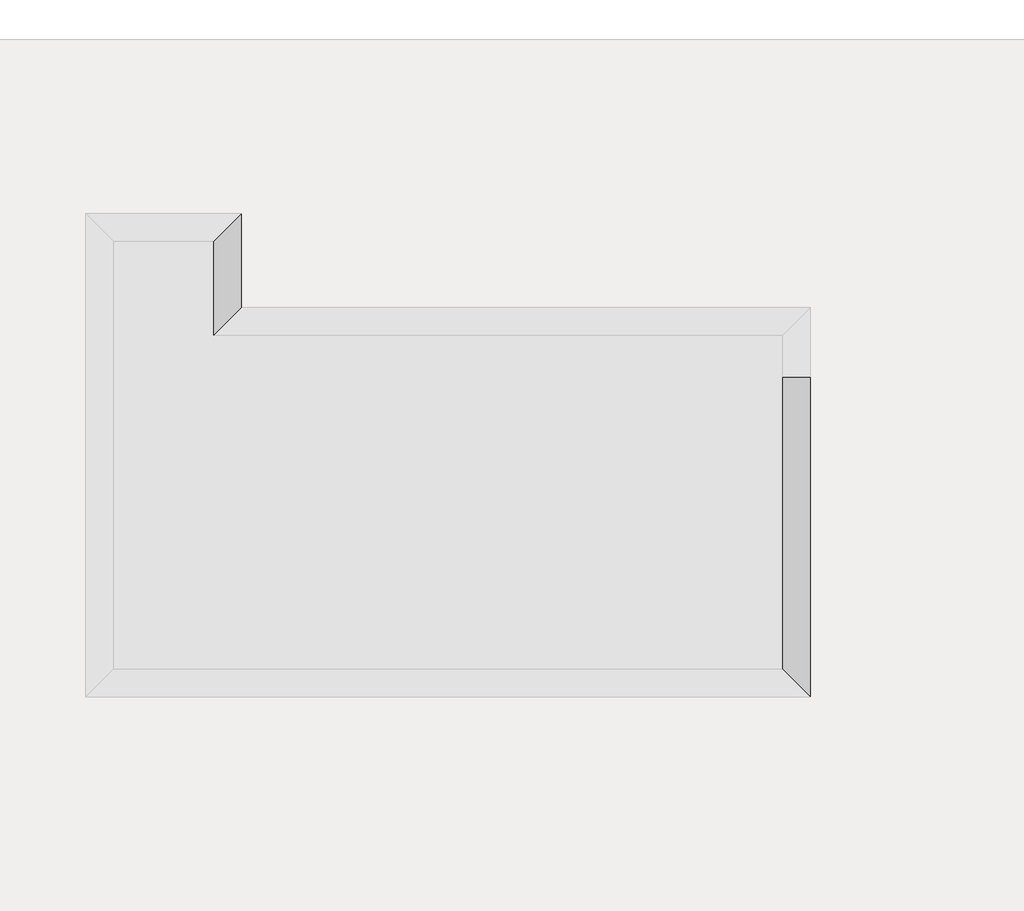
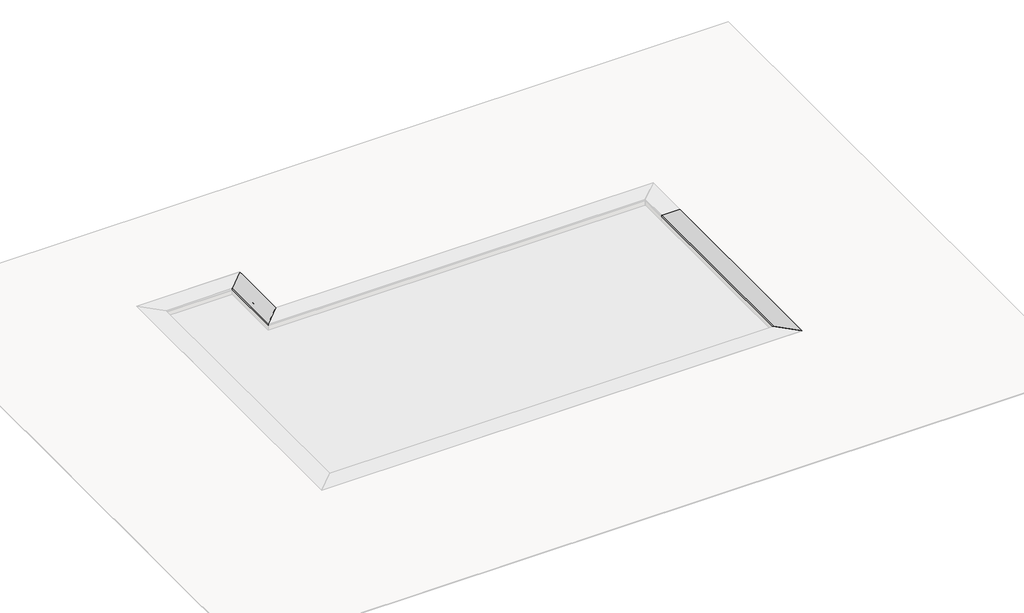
# One storey, part 5 of 6: 4 proxies.
"""IFC4 building model written with IfcOpenShell, lengths in millimetres."""

from ifc_helpers import new_model, si_unit, origin, place, context, project, spatial, faceted_brep, element, save

model = new_model("IFC4")

# Units and contexts
model_context = context("Model", 3, world=origin())
ifc_project = project(units=[si_unit("LENGTHUNIT", "METRE", prefix="MILLI")], contexts=[model_context])

# Site, building, storey
site = spatial("IfcSite", under=ifc_project)
building = spatial("IfcBuilding", under=site)
storey = spatial("IfcBuildingStorey", under=building, Name="EXAGRES_Serie NUBIA_Piscinas_ejemplo", Elevation=18000.0)

# Proxies
placement = place(None, origin())
element("IfcBuildingElementProxy", 1, Name="Wall Sweeps", at=placement, inside=storey, context=model_context, shape_type="Brep", body=[
    faceted_brep([(12584.1171839, -4530.6632512, 18000.0), (12584.1171839, -4530.6632512, 18008.0), (12583.1171839, -4531.6632512, 18008.0), (12583.1171839, -4531.6632512, 18014.0), (12584.1171839, -4530.6632512, 18014.0), (12584.1171839, -4530.6632512, 18021.0), (12591.1171839, -4523.6632512, 18021.0), (12591.1171839, -4523.6632512, 18022.0), (12595.1171839, -4519.6632512, 18022.0), (12595.1171839, -4519.6632512, 18021.0), (12601.1171839, -4513.6632512, 18021.0), (12601.1171839, -4513.6632512, 18022.0), (12605.1171839, -4509.6632512, 18022.0), (12605.1171839, -4509.6632512, 18021.0), (12611.1171839, -4503.6632512, 18021.0), (12611.1171839, -4503.6632512, 18022.0), (12615.1171839, -4499.6632512, 18022.0), (12615.1171839, -4499.6632512, 18021.0), (12621.1171839, -4493.6632512, 18021.0), (12621.1171839, -4493.6632512, 18022.0), (12625.1171839, -4489.6632512, 18022.0), (12625.1171839, -4489.6632512, 18021.0), (12631.1171839, -4483.6632512, 18021.0), (12631.1171839, -4483.6632512, 18022.0), (12635.1171839, -4479.6632512, 18022.0), (12635.1171839, -4479.6632512, 18021.0), (12641.1171839, -4473.6632512, 18021.0), (12641.1171839, -4473.6632512, 18022.0), (12645.1171839, -4469.6632512, 18022.0), (12645.1171839, -4469.6632512, 18021.0), (12651.1171839, -4463.6632512, 18021.0), (12651.1171839, -4463.6632512, 18022.0), (12655.1171839, -4459.6632512, 18022.0), (12655.1171839, -4459.6632512, 18021.0), (12661.1171839, -4453.6632512, 18021.0), (12661.1171839, -4453.6632512, 18022.0), (12665.1171839, -4449.6632512, 18022.0), (12665.1171839, -4449.6632512, 18021.0), (12671.1171839, -4443.6632512, 18021.0), (12671.1171839, -4443.6632512, 18022.0), (12675.1171839, -4439.6632512, 18022.0), (12675.1171839, -4439.6632512, 18021.0), (12681.1171839, -4433.6632512, 18021.0), (12681.1171839, -4433.6632512, 18022.0), (12685.1171839, -4429.6632512, 18022.0), (12685.1171839, -4429.6632512, 18021.0), (12691.1171839, -4423.6632512, 18021.0), (12691.1171839, -4423.6632512, 18022.0), (12695.1171839, -4419.6632512, 18022.0), (12695.1171839, -4419.6632512, 18021.0), (12701.1171839, -4413.6632512, 18021.0), (12701.1171839, -4413.6632512, 18022.0), (12705.1171839, -4409.6632512, 18022.0), (12705.1171839, -4409.6632512, 18021.0), (12711.1171839, -4403.6632512, 18021.0), (12711.1171839, -4403.6632512, 18022.0), (12715.1171839, -4399.6632512, 18022.0), (12715.1171839, -4399.6632512, 18021.0), (12721.1171839, -4393.6632512, 18021.0), (12721.1171839, -4393.6632512, 18022.0), (12725.1171839, -4389.6632512, 18022.0), (12725.1171839, -4389.6632512, 18021.0), (12731.1171839, -4383.6632512, 18021.0), (12731.1171839, -4383.6632512, 18022.0), (12735.1171839, -4379.6632512, 18022.0), (12735.1171839, -4379.6632512, 18021.0), (12741.1171839, -4373.6632512, 18021.0), (12741.1171839, -4373.6632512, 18022.0), (12745.1171839, -4369.6632512, 18022.0), (12745.1171839, -4369.6632512, 18021.0), (12751.1171839, -4363.6632512, 18021.0), (12751.1171839, -4363.6632512, 18022.0), (12755.1171839, -4359.6632512, 18022.0), (12755.1171839, -4359.6632512, 18021.0), (12761.1171839, -4353.6632512, 18021.0), (12761.1171839, -4353.6632512, 18022.0), (12765.1171839, -4349.6632512, 18022.0), (12765.1171839, -4349.6632512, 18021.0), (12771.1171839, -4343.6632512, 18021.0), (12771.1171839, -4343.6632512, 18022.0), (12775.1171839, -4339.6632512, 18022.0), (12775.1171839, -4339.6632512, 18021.0), (12781.1171839, -4333.6632512, 18021.0), (12781.1171839, -4333.6632512, 18022.0), (12785.1171839, -4329.6632512, 18022.0), (12785.1171839, -4329.6632512, 18021.0), (12791.1171839, -4323.6632512, 18021.0), (12791.1171839, -4323.6632512, 18022.0), (12795.1171839, -4319.6632512, 18022.0), (12795.1171839, -4319.6632512, 18021.0), (12801.1171839, -4313.6632512, 18021.0), (12801.1171839, -4313.6632512, 18022.0), (12805.1171839, -4309.6632512, 18022.0), (12805.1171839, -4309.6632512, 18021.0), (12811.1171839, -4303.6632512, 18021.0), (12811.1171839, -4303.6632512, 18022.0), (12815.1171839, -4299.6632512, 18022.0), (12815.1171839, -4299.6632512, 18021.0), (12821.1171839, -4293.6632512, 18021.0), (12821.1171839, -4293.6632512, 18022.0), (12825.1171839, -4289.6632512, 18022.0), (12825.1171839, -4289.6632512, 18021.0), (12831.1171839, -4283.6632512, 18021.0), (12831.1171839, -4283.6632512, 18022.0), (12835.1171839, -4279.6632512, 18022.0), (12835.1171839, -4279.6632512, 18021.0), (12841.1171839, -4273.6632512, 18021.0), (12841.1171839, -4273.6632512, 18022.0), (12845.1171839, -4269.6632512, 18022.0), (12845.1171839, -4269.6632512, 18021.0), (12851.1171839, -4263.6632512, 18021.0), (12851.1171839, -4263.6632512, 18022.0), (12855.1171839, -4259.6632512, 18022.0), (12855.1171839, -4259.6632512, 18021.0), (12861.1171839, -4253.6632512, 18021.0), (12861.1171839, -4253.6632512, 18022.0), (12865.1171839, -4249.6632512, 18022.0), (12865.1171839, -4249.6632512, 18021.0), (12871.1171839, -4243.6632512, 18021.0), (12871.1171839, -4243.6632512, 18022.0), (12875.1171839, -4239.6632512, 18022.0), (12875.1171839, -4239.6632512, 18021.0), (12881.1171839, -4233.6632512, 18021.0), (12881.1171839, -4233.6632512, 18022.0), (12885.1171839, -4229.6632512, 18022.0), (12885.1171839, -4229.6632512, 18021.0), (12891.1171839, -4223.6632512, 18021.0), (12891.1171839, -4223.6632512, 18022.0), (12895.1171839, -4219.6632512, 18022.0), (12895.1171839, -4219.6632512, 18021.0), (12901.1171839, -4213.6632512, 18021.0), (12901.1171839, -4213.6632512, 18033.0), (12571.1171839, -4543.6632512, 18033.0), (12571.1171839, -4543.6632512, 18000.0), (12584.1171839, -3410.6632512, 18000.0), (12571.1171839, -3423.6632512, 18000.0), (12571.1171839, -3423.6632512, 18033.0), (12901.1171839, -3093.6632512, 18033.0), (12901.1171839, -3093.6632512, 18021.0), (12895.1171839, -3099.6632512, 18021.0), (12895.1171839, -3099.6632512, 18022.0), (12891.1171839, -3103.6632512, 18022.0), (12891.1171839, -3103.6632512, 18021.0), (12885.1171839, -3109.6632512, 18021.0), (12885.1171839, -3109.6632512, 18022.0), (12881.1171839, -3113.6632512, 18022.0), (12881.1171839, -3113.6632512, 18021.0), (12875.1171839, -3119.6632512, 18021.0), (12875.1171839, -3119.6632512, 18022.0), (12871.1171839, -3123.6632512, 18022.0), (12871.1171839, -3123.6632512, 18021.0), (12865.1171839, -3129.6632512, 18021.0), (12865.1171839, -3129.6632512, 18022.0), (12861.1171839, -3133.6632512, 18022.0), (12861.1171839, -3133.6632512, 18021.0), (12855.1171839, -3139.6632512, 18021.0), (12855.1171839, -3139.6632512, 18022.0), (12851.1171839, -3143.6632512, 18022.0), (12851.1171839, -3143.6632512, 18021.0), (12845.1171839, -3149.6632512, 18021.0), (12845.1171839, -3149.6632512, 18022.0), (12841.1171839, -3153.6632512, 18022.0), (12841.1171839, -3153.6632512, 18021.0), (12835.1171839, -3159.6632512, 18021.0), (12835.1171839, -3159.6632512, 18022.0), (12831.1171839, -3163.6632512, 18022.0), (12831.1171839, -3163.6632512, 18021.0), (12825.1171839, -3169.6632512, 18021.0), (12825.1171839, -3169.6632512, 18022.0), (12821.1171839, -3173.6632512, 18022.0), (12821.1171839, -3173.6632512, 18021.0), (12815.1171839, -3179.6632512, 18021.0), (12815.1171839, -3179.6632512, 18022.0), (12811.1171839, -3183.6632512, 18022.0), (12811.1171839, -3183.6632512, 18021.0), (12805.1171839, -3189.6632512, 18021.0), (12805.1171839, -3189.6632512, 18022.0), (12801.1171839, -3193.6632512, 18022.0), (12801.1171839, -3193.6632512, 18021.0), (12795.1171839, -3199.6632512, 18021.0), (12795.1171839, -3199.6632512, 18022.0), (12791.1171839, -3203.6632512, 18022.0), (12791.1171839, -3203.6632512, 18021.0), (12785.1171839, -3209.6632512, 18021.0), (12785.1171839, -3209.6632512, 18022.0), (12781.1171839, -3213.6632512, 18022.0), (12781.1171839, -3213.6632512, 18021.0), (12775.1171839, -3219.6632512, 18021.0), (12775.1171839, -3219.6632512, 18022.0), (12771.1171839, -3223.6632512, 18022.0), (12771.1171839, -3223.6632512, 18021.0), (12765.1171839, -3229.6632512, 18021.0), (12765.1171839, -3229.6632512, 18022.0), (12761.1171839, -3233.6632512, 18022.0), (12761.1171839, -3233.6632512, 18021.0), (12755.1171839, -3239.6632512, 18021.0), (12755.1171839, -3239.6632512, 18022.0), (12751.1171839, -3243.6632512, 18022.0), (12751.1171839, -3243.6632512, 18021.0), (12745.1171839, -3249.6632512, 18021.0), (12745.1171839, -3249.6632512, 18022.0), (12741.1171839, -3253.6632512, 18022.0), (12741.1171839, -3253.6632512, 18021.0), (12735.1171839, -3259.6632512, 18021.0), (12735.1171839, -3259.6632512, 18022.0), (12731.1171839, -3263.6632512, 18022.0), (12731.1171839, -3263.6632512, 18021.0), (12725.1171839, -3269.6632512, 18021.0), (12725.1171839, -3269.6632512, 18022.0), (12721.1171839, -3273.6632512, 18022.0), (12721.1171839, -3273.6632512, 18021.0), (12715.1171839, -3279.6632512, 18021.0), (12715.1171839, -3279.6632512, 18022.0), (12711.1171839, -3283.6632512, 18022.0), (12711.1171839, -3283.6632512, 18021.0), (12705.1171839, -3289.6632512, 18021.0), (12705.1171839, -3289.6632512, 18022.0), (12701.1171839, -3293.6632512, 18022.0), (12701.1171839, -3293.6632512, 18021.0), (12695.1171839, -3299.6632512, 18021.0), (12695.1171839, -3299.6632512, 18022.0), (12691.1171839, -3303.6632512, 18022.0), (12691.1171839, -3303.6632512, 18021.0), (12685.1171839, -3309.6632512, 18021.0), (12685.1171839, -3309.6632512, 18022.0), (12681.1171839, -3313.6632512, 18022.0), (12681.1171839, -3313.6632512, 18021.0), (12675.1171839, -3319.6632512, 18021.0), (12675.1171839, -3319.6632512, 18022.0), (12671.1171839, -3323.6632512, 18022.0), (12671.1171839, -3323.6632512, 18021.0), (12665.1171839, -3329.6632512, 18021.0), (12665.1171839, -3329.6632512, 18022.0), (12661.1171839, -3333.6632512, 18022.0), (12661.1171839, -3333.6632512, 18021.0), (12655.1171839, -3339.6632512, 18021.0), (12655.1171839, -3339.6632512, 18022.0), (12651.1171839, -3343.6632512, 18022.0), (12651.1171839, -3343.6632512, 18021.0), (12645.1171839, -3349.6632512, 18021.0), (12645.1171839, -3349.6632512, 18022.0), (12641.1171839, -3353.6632512, 18022.0), (12641.1171839, -3353.6632512, 18021.0), (12635.1171839, -3359.6632512, 18021.0), (12635.1171839, -3359.6632512, 18022.0), (12631.1171839, -3363.6632512, 18022.0), (12631.1171839, -3363.6632512, 18021.0), (12625.1171839, -3369.6632512, 18021.0), (12625.1171839, -3369.6632512, 18022.0), (12621.1171839, -3373.6632512, 18022.0), (12621.1171839, -3373.6632512, 18021.0), (12615.1171839, -3379.6632512, 18021.0), (12615.1171839, -3379.6632512, 18022.0), (12611.1171839, -3383.6632512, 18022.0), (12611.1171839, -3383.6632512, 18021.0), (12605.1171839, -3389.6632512, 18021.0), (12605.1171839, -3389.6632512, 18022.0), (12601.1171839, -3393.6632512, 18022.0), (12601.1171839, -3393.6632512, 18021.0), (12595.1171839, -3399.6632512, 18021.0), (12595.1171839, -3399.6632512, 18022.0), (12591.1171839, -3403.6632512, 18022.0), (12591.1171839, -3403.6632512, 18021.0), (12584.1171839, -3410.6632512, 18021.0), (12584.1171839, -3410.6632512, 18014.0), (12583.1171839, -3411.6632512, 18014.0), (12583.1171839, -3411.6632512, 18008.0), (12584.1171839, -3410.6632512, 18008.0)], [[[0, 1, 2, 3, 4, 5, 6, 7, 8, 9, 10, 11, 12, 13, 14, 15, 16, 17, 18, 19, 20, 21, 22, 23, 24, 25, 26, 27, 28, 29, 30, 31, 32, 33, 34, 35, 36, 37, 38, 39, 40, 41, 42, 43, 44, 45, 46, 47, 48, 49, 50, 51, 52, 53, 54, 55, 56, 57, 58, 59, 60, 61, 62, 63, 64, 65, 66, 67, 68, 69, 70, 71, 72, 73, 74, 75, 76, 77, 78, 79, 80, 81, 82, 83, 84, 85, 86, 87, 88, 89, 90, 91, 92, 93, 94, 95, 96, 97, 98, 99, 100, 101, 102, 103, 104, 105, 106, 107, 108, 109, 110, 111, 112, 113, 114, 115, 116, 117, 118, 119, 120, 121, 122, 123, 124, 125, 126, 127, 128, 129, 130, 131, 132, 133]], [[134, 135, 136, 137, 138, 139, 140, 141, 142, 143, 144, 145, 146, 147, 148, 149, 150, 151, 152, 153, 154, 155, 156, 157, 158, 159, 160, 161, 162, 163, 164, 165, 166, 167, 168, 169, 170, 171, 172, 173, 174, 175, 176, 177, 178, 179, 180, 181, 182, 183, 184, 185, 186, 187, 188, 189, 190, 191, 192, 193, 194, 195, 196, 197, 198, 199, 200, 201, 202, 203, 204, 205, 206, 207, 208, 209, 210, 211, 212, 213, 214, 215, 216, 217, 218, 219, 220, 221, 222, 223, 224, 225, 226, 227, 228, 229, 230, 231, 232, 233, 234, 235, 236, 237, 238, 239, 240, 241, 242, 243, 244, 245, 246, 247, 248, 249, 250, 251, 252, 253, 254, 255, 256, 257, 258, 259, 260, 261, 262, 263, 264, 265, 266, 267]], [[1, 0, 134, 267]], [[2, 1, 267, 266]], [[3, 2, 266, 265]], [[4, 3, 265, 264]], [[5, 4, 264, 263]], [[6, 5, 263, 262]], [[7, 6, 262, 261]], [[8, 7, 261, 260]], [[9, 8, 260, 259]], [[10, 9, 259, 258]], [[11, 10, 258, 257]], [[12, 11, 257, 256]], [[13, 12, 256, 255]], [[14, 13, 255, 254]], [[15, 14, 254, 253]], [[16, 15, 253, 252]], [[17, 16, 252, 251]], [[18, 17, 251, 250]], [[19, 18, 250, 249]], [[20, 19, 249, 248]], [[21, 20, 248, 247]], [[22, 21, 247, 246]], [[23, 22, 246, 245]], [[24, 23, 245, 244]], [[25, 24, 244, 243]], [[26, 25, 243, 242]], [[27, 26, 242, 241]], [[28, 27, 241, 240]], [[29, 28, 240, 239]], [[30, 29, 239, 238]], [[31, 30, 238, 237]], [[32, 31, 237, 236]], [[33, 32, 236, 235]], [[34, 33, 235, 234]], [[35, 34, 234, 233]], [[36, 35, 233, 232]], [[37, 36, 232, 231]], [[38, 37, 231, 230]], [[39, 38, 230, 229]], [[40, 39, 229, 228]], [[41, 40, 228, 227]], [[42, 41, 227, 226]], [[43, 42, 226, 225]], [[44, 43, 225, 224]], [[45, 44, 224, 223]], [[46, 45, 223, 222]], [[47, 46, 222, 221]], [[48, 47, 221, 220]], [[49, 48, 220, 219]], [[50, 49, 219, 218]], [[51, 50, 218, 217]], [[52, 51, 217, 216]], [[53, 52, 216, 215]], [[54, 53, 215, 214]], [[55, 54, 214, 213]], [[56, 55, 213, 212]], [[57, 56, 212, 211]], [[58, 57, 211, 210]], [[59, 58, 210, 209]], [[60, 59, 209, 208]], [[61, 60, 208, 207]], [[62, 61, 207, 206]], [[63, 62, 206, 205]], [[64, 63, 205, 204]], [[65, 64, 204, 203]], [[66, 65, 203, 202]], [[67, 66, 202, 201]], [[68, 67, 201, 200]], [[69, 68, 200, 199]], [[70, 69, 199, 198]], [[71, 70, 198, 197]], [[72, 71, 197, 196]], [[73, 72, 196, 195]], [[74, 73, 195, 194]], [[75, 74, 194, 193]], [[76, 75, 193, 192]], [[77, 76, 192, 191]], [[78, 77, 191, 190]], [[79, 78, 190, 189]], [[80, 79, 189, 188]], [[81, 80, 188, 187]], [[82, 81, 187, 186]], [[83, 82, 186, 185]], [[84, 83, 185, 184]], [[85, 84, 184, 183]], [[86, 85, 183, 182]], [[87, 86, 182, 181]], [[88, 87, 181, 180]], [[89, 88, 180, 179]], [[90, 89, 179, 178]], [[91, 90, 178, 177]], [[92, 91, 177, 176]], [[93, 92, 176, 175]], [[94, 93, 175, 174]], [[95, 94, 174, 173]], [[96, 95, 173, 172]], [[97, 96, 172, 171]], [[98, 97, 171, 170]], [[99, 98, 170, 169]], [[100, 99, 169, 168]], [[101, 100, 168, 167]], [[102, 101, 167, 166]], [[103, 102, 166, 165]], [[104, 103, 165, 164]], [[105, 104, 164, 163]], [[106, 105, 163, 162]], [[107, 106, 162, 161]], [[108, 107, 161, 160]], [[109, 108, 160, 159]], [[110, 109, 159, 158]], [[111, 110, 158, 157]], [[112, 111, 157, 156]], [[113, 112, 156, 155]], [[114, 113, 155, 154]], [[115, 114, 154, 153]], [[116, 115, 153, 152]], [[117, 116, 152, 151]], [[118, 117, 151, 150]], [[119, 118, 150, 149]], [[120, 119, 149, 148]], [[121, 120, 148, 147]], [[122, 121, 147, 146]], [[123, 122, 146, 145]], [[124, 123, 145, 144]], [[125, 124, 144, 143]], [[126, 125, 143, 142]], [[127, 126, 142, 141]], [[128, 127, 141, 140]], [[129, 128, 140, 139]], [[130, 129, 139, 138]], [[131, 130, 138, 137]], [[132, 131, 137, 136]], [[133, 132, 136, 135]], [[0, 133, 135, 134]]]),
])
element("IfcBuildingElementProxy", 2, Name="Wall Sweeps", at=placement, inside=storey, context=model_context, shape_type="Brep", body=[
    faceted_brep([(12891.1171839, -4223.6632512, 17818.74), (12891.1171839, -4223.6632512, 18018.74), (12586.1171839, -4528.6632512, 18018.74), (12586.1171839, -4528.6632512, 18000.0), (12586.1171839, -4528.6632512, 17818.74), (12796.1171839, -4318.6632512, 17818.74), (12891.1171839, -3103.6632512, 17818.74), (12796.1171839, -3198.6632512, 17818.74), (12586.1171839, -3408.6632512, 17818.74), (12586.1171839, -3408.6632512, 18000.0), (12586.1171839, -3408.6632512, 18018.74), (12891.1171839, -3103.6632512, 18018.74)], [[[0, 1, 2, 3, 4, 5]], [[6, 7, 8, 9, 10, 11]], [[0, 5, 4, 8, 7, 6]], [[4, 3, 2, 10, 9, 8]], [[1, 0, 6, 11]], [[2, 1, 11, 10]]]),
])
element("IfcBuildingElementProxy", 3, Name="Wall Sweeps", at=placement, inside=storey, context=model_context, shape_type="Brep", body=[
    faceted_brep([(19384.1171839, -5051.1632512, 18000.0), (19371.1171839, -5051.1632512, 18000.0), (19371.1171839, -5051.1632512, 18033.0), (19701.1171839, -5051.1632512, 18033.0), (19701.1171839, -5051.1632512, 18021.0), (19695.1171839, -5051.1632512, 18021.0), (19695.1171839, -5051.1632512, 18022.0), (19691.1171839, -5051.1632512, 18022.0), (19691.1171839, -5051.1632512, 18021.0), (19685.1171839, -5051.1632512, 18021.0), (19685.1171839, -5051.1632512, 18022.0), (19681.1171839, -5051.1632512, 18022.0), (19681.1171839, -5051.1632512, 18021.0), (19675.1171839, -5051.1632512, 18021.0), (19675.1171839, -5051.1632512, 18022.0), (19671.1171839, -5051.1632512, 18022.0), (19671.1171839, -5051.1632512, 18021.0), (19665.1171839, -5051.1632512, 18021.0), (19665.1171839, -5051.1632512, 18022.0), (19661.1171839, -5051.1632512, 18022.0), (19661.1171839, -5051.1632512, 18021.0), (19655.1171839, -5051.1632512, 18021.0), (19655.1171839, -5051.1632512, 18022.0), (19651.1171839, -5051.1632512, 18022.0), (19651.1171839, -5051.1632512, 18021.0), (19645.1171839, -5051.1632512, 18021.0), (19645.1171839, -5051.1632512, 18022.0), (19641.1171839, -5051.1632512, 18022.0), (19641.1171839, -5051.1632512, 18021.0), (19635.1171839, -5051.1632512, 18021.0), (19635.1171839, -5051.1632512, 18022.0), (19631.1171839, -5051.1632512, 18022.0), (19631.1171839, -5051.1632512, 18021.0), (19625.1171839, -5051.1632512, 18021.0), (19625.1171839, -5051.1632512, 18022.0), (19621.1171839, -5051.1632512, 18022.0), (19621.1171839, -5051.1632512, 18021.0), (19615.1171839, -5051.1632512, 18021.0), (19615.1171839, -5051.1632512, 18022.0), (19611.1171839, -5051.1632512, 18022.0), (19611.1171839, -5051.1632512, 18021.0), (19605.1171839, -5051.1632512, 18021.0), (19605.1171839, -5051.1632512, 18022.0), (19601.1171839, -5051.1632512, 18022.0), (19601.1171839, -5051.1632512, 18021.0), (19595.1171839, -5051.1632512, 18021.0), (19595.1171839, -5051.1632512, 18022.0), (19591.1171839, -5051.1632512, 18022.0), (19591.1171839, -5051.1632512, 18021.0), (19585.1171839, -5051.1632512, 18021.0), (19585.1171839, -5051.1632512, 18022.0), (19581.1171839, -5051.1632512, 18022.0), (19581.1171839, -5051.1632512, 18021.0), (19575.1171839, -5051.1632512, 18021.0), (19575.1171839, -5051.1632512, 18022.0), (19571.1171839, -5051.1632512, 18022.0), (19571.1171839, -5051.1632512, 18021.0), (19565.1171839, -5051.1632512, 18021.0), (19565.1171839, -5051.1632512, 18022.0), (19561.1171839, -5051.1632512, 18022.0), (19561.1171839, -5051.1632512, 18021.0), (19555.1171839, -5051.1632512, 18021.0), (19555.1171839, -5051.1632512, 18022.0), (19551.1171839, -5051.1632512, 18022.0), (19551.1171839, -5051.1632512, 18021.0), (19545.1171839, -5051.1632512, 18021.0), (19545.1171839, -5051.1632512, 18022.0), (19541.1171839, -5051.1632512, 18022.0), (19541.1171839, -5051.1632512, 18021.0), (19535.1171839, -5051.1632512, 18021.0), (19535.1171839, -5051.1632512, 18022.0), (19531.1171839, -5051.1632512, 18022.0), (19531.1171839, -5051.1632512, 18021.0), (19525.1171839, -5051.1632512, 18021.0), (19525.1171839, -5051.1632512, 18022.0), (19521.1171839, -5051.1632512, 18022.0), (19521.1171839, -5051.1632512, 18021.0), (19515.1171839, -5051.1632512, 18021.0), (19515.1171839, -5051.1632512, 18022.0), (19511.1171839, -5051.1632512, 18022.0), (19511.1171839, -5051.1632512, 18021.0), (19505.1171839, -5051.1632512, 18021.0), (19505.1171839, -5051.1632512, 18022.0), (19501.1171839, -5051.1632512, 18022.0), (19501.1171839, -5051.1632512, 18021.0), (19495.1171839, -5051.1632512, 18021.0), (19495.1171839, -5051.1632512, 18022.0), (19491.1171839, -5051.1632512, 18022.0), (19491.1171839, -5051.1632512, 18021.0), (19485.1171839, -5051.1632512, 18021.0), (19485.1171839, -5051.1632512, 18022.0), (19481.1171839, -5051.1632512, 18022.0), (19481.1171839, -5051.1632512, 18021.0), (19475.1171839, -5051.1632512, 18021.0), (19475.1171839, -5051.1632512, 18022.0), (19471.1171839, -5051.1632512, 18022.0), (19471.1171839, -5051.1632512, 18021.0), (19465.1171839, -5051.1632512, 18021.0), (19465.1171839, -5051.1632512, 18022.0), (19461.1171839, -5051.1632512, 18022.0), (19461.1171839, -5051.1632512, 18021.0), (19455.1171839, -5051.1632512, 18021.0), (19455.1171839, -5051.1632512, 18022.0), (19451.1171839, -5051.1632512, 18022.0), (19451.1171839, -5051.1632512, 18021.0), (19445.1171839, -5051.1632512, 18021.0), (19445.1171839, -5051.1632512, 18022.0), (19441.1171839, -5051.1632512, 18022.0), (19441.1171839, -5051.1632512, 18021.0), (19435.1171839, -5051.1632512, 18021.0), (19435.1171839, -5051.1632512, 18022.0), (19431.1171839, -5051.1632512, 18022.0), (19431.1171839, -5051.1632512, 18021.0), (19425.1171839, -5051.1632512, 18021.0), (19425.1171839, -5051.1632512, 18022.0), (19421.1171839, -5051.1632512, 18022.0), (19421.1171839, -5051.1632512, 18021.0), (19415.1171839, -5051.1632512, 18021.0), (19415.1171839, -5051.1632512, 18022.0), (19411.1171839, -5051.1632512, 18022.0), (19411.1171839, -5051.1632512, 18021.0), (19405.1171839, -5051.1632512, 18021.0), (19405.1171839, -5051.1632512, 18022.0), (19401.1171839, -5051.1632512, 18022.0), (19401.1171839, -5051.1632512, 18021.0), (19395.1171839, -5051.1632512, 18021.0), (19395.1171839, -5051.1632512, 18022.0), (19391.1171839, -5051.1632512, 18022.0), (19391.1171839, -5051.1632512, 18021.0), (19384.1171839, -5051.1632512, 18021.0), (19384.1171839, -5051.1632512, 18014.0), (19383.1171839, -5051.1632512, 18014.0), (19383.1171839, -5051.1632512, 18008.0), (19384.1171839, -5051.1632512, 18008.0), (19384.1171839, -8556.6632512, 18000.0), (19384.1171839, -8556.6632512, 18008.0), (19383.1171839, -8555.6632512, 18008.0), (19383.1171839, -8555.6632512, 18014.0), (19384.1171839, -8556.6632512, 18014.0), (19384.1171839, -8556.6632512, 18021.0), (19391.1171839, -8563.6632512, 18021.0), (19391.1171839, -8563.6632512, 18022.0), (19395.1171839, -8567.6632512, 18022.0), (19395.1171839, -8567.6632512, 18021.0), (19401.1171839, -8573.6632512, 18021.0), (19401.1171839, -8573.6632512, 18022.0), (19405.1171839, -8577.6632512, 18022.0), (19405.1171839, -8577.6632512, 18021.0), (19411.1171839, -8583.6632512, 18021.0), (19411.1171839, -8583.6632512, 18022.0), (19415.1171839, -8587.6632512, 18022.0), (19415.1171839, -8587.6632512, 18021.0), (19421.1171839, -8593.6632512, 18021.0), (19421.1171839, -8593.6632512, 18022.0), (19425.1171839, -8597.6632512, 18022.0), (19425.1171839, -8597.6632512, 18021.0), (19431.1171839, -8603.6632512, 18021.0), (19431.1171839, -8603.6632512, 18022.0), (19435.1171839, -8607.6632512, 18022.0), (19435.1171839, -8607.6632512, 18021.0), (19441.1171839, -8613.6632512, 18021.0), (19441.1171839, -8613.6632512, 18022.0), (19445.1171839, -8617.6632512, 18022.0), (19445.1171839, -8617.6632512, 18021.0), (19451.1171839, -8623.6632512, 18021.0), (19451.1171839, -8623.6632512, 18022.0), (19455.1171839, -8627.6632512, 18022.0), (19455.1171839, -8627.6632512, 18021.0), (19461.1171839, -8633.6632512, 18021.0), (19461.1171839, -8633.6632512, 18022.0), (19465.1171839, -8637.6632512, 18022.0), (19465.1171839, -8637.6632512, 18021.0), (19471.1171839, -8643.6632512, 18021.0), (19471.1171839, -8643.6632512, 18022.0), (19475.1171839, -8647.6632512, 18022.0), (19475.1171839, -8647.6632512, 18021.0), (19481.1171839, -8653.6632512, 18021.0), (19481.1171839, -8653.6632512, 18022.0), (19485.1171839, -8657.6632512, 18022.0), (19485.1171839, -8657.6632512, 18021.0), (19491.1171839, -8663.6632512, 18021.0), (19491.1171839, -8663.6632512, 18022.0), (19495.1171839, -8667.6632512, 18022.0), (19495.1171839, -8667.6632512, 18021.0), (19501.1171839, -8673.6632512, 18021.0), (19501.1171839, -8673.6632512, 18022.0), (19505.1171839, -8677.6632512, 18022.0), (19505.1171839, -8677.6632512, 18021.0), (19511.1171839, -8683.6632512, 18021.0), (19511.1171839, -8683.6632512, 18022.0), (19515.1171839, -8687.6632512, 18022.0), (19515.1171839, -8687.6632512, 18021.0), (19521.1171839, -8693.6632512, 18021.0), (19521.1171839, -8693.6632512, 18022.0), (19525.1171839, -8697.6632512, 18022.0), (19525.1171839, -8697.6632512, 18021.0), (19531.1171839, -8703.6632512, 18021.0), (19531.1171839, -8703.6632512, 18022.0), (19535.1171839, -8707.6632512, 18022.0), (19535.1171839, -8707.6632512, 18021.0), (19541.1171839, -8713.6632512, 18021.0), (19541.1171839, -8713.6632512, 18022.0), (19545.1171839, -8717.6632512, 18022.0), (19545.1171839, -8717.6632512, 18021.0), (19551.1171839, -8723.6632512, 18021.0), (19551.1171839, -8723.6632512, 18022.0), (19555.1171839, -8727.6632512, 18022.0), (19555.1171839, -8727.6632512, 18021.0), (19561.1171839, -8733.6632512, 18021.0), (19561.1171839, -8733.6632512, 18022.0), (19565.1171839, -8737.6632512, 18022.0), (19565.1171839, -8737.6632512, 18021.0), (19571.1171839, -8743.6632512, 18021.0), (19571.1171839, -8743.6632512, 18022.0), (19575.1171839, -8747.6632512, 18022.0), (19575.1171839, -8747.6632512, 18021.0), (19581.1171839, -8753.6632512, 18021.0), (19581.1171839, -8753.6632512, 18022.0), (19585.1171839, -8757.6632512, 18022.0), (19585.1171839, -8757.6632512, 18021.0), (19591.1171839, -8763.6632512, 18021.0), (19591.1171839, -8763.6632512, 18022.0), (19595.1171839, -8767.6632512, 18022.0), (19595.1171839, -8767.6632512, 18021.0), (19601.1171839, -8773.6632512, 18021.0), (19601.1171839, -8773.6632512, 18022.0), (19605.1171839, -8777.6632512, 18022.0), (19605.1171839, -8777.6632512, 18021.0), (19611.1171839, -8783.6632512, 18021.0), (19611.1171839, -8783.6632512, 18022.0), (19615.1171839, -8787.6632512, 18022.0), (19615.1171839, -8787.6632512, 18021.0), (19621.1171839, -8793.6632512, 18021.0), (19621.1171839, -8793.6632512, 18022.0), (19625.1171839, -8797.6632512, 18022.0), (19625.1171839, -8797.6632512, 18021.0), (19631.1171839, -8803.6632512, 18021.0), (19631.1171839, -8803.6632512, 18022.0), (19635.1171839, -8807.6632512, 18022.0), (19635.1171839, -8807.6632512, 18021.0), (19641.1171839, -8813.6632512, 18021.0), (19641.1171839, -8813.6632512, 18022.0), (19645.1171839, -8817.6632512, 18022.0), (19645.1171839, -8817.6632512, 18021.0), (19651.1171839, -8823.6632512, 18021.0), (19651.1171839, -8823.6632512, 18022.0), (19655.1171839, -8827.6632512, 18022.0), (19655.1171839, -8827.6632512, 18021.0), (19661.1171839, -8833.6632512, 18021.0), (19661.1171839, -8833.6632512, 18022.0), (19665.1171839, -8837.6632512, 18022.0), (19665.1171839, -8837.6632512, 18021.0), (19671.1171839, -8843.6632512, 18021.0), (19671.1171839, -8843.6632512, 18022.0), (19675.1171839, -8847.6632512, 18022.0), (19675.1171839, -8847.6632512, 18021.0), (19681.1171839, -8853.6632512, 18021.0), (19681.1171839, -8853.6632512, 18022.0), (19685.1171839, -8857.6632512, 18022.0), (19685.1171839, -8857.6632512, 18021.0), (19691.1171839, -8863.6632512, 18021.0), (19691.1171839, -8863.6632512, 18022.0), (19695.1171839, -8867.6632512, 18022.0), (19695.1171839, -8867.6632512, 18021.0), (19701.1171839, -8873.6632512, 18021.0), (19701.1171839, -8873.6632512, 18033.0), (19371.1171839, -8543.6632512, 18033.0), (19371.1171839, -8543.6632512, 18000.0)], [[[0, 1, 2, 3, 4, 5, 6, 7, 8, 9, 10, 11, 12, 13, 14, 15, 16, 17, 18, 19, 20, 21, 22, 23, 24, 25, 26, 27, 28, 29, 30, 31, 32, 33, 34, 35, 36, 37, 38, 39, 40, 41, 42, 43, 44, 45, 46, 47, 48, 49, 50, 51, 52, 53, 54, 55, 56, 57, 58, 59, 60, 61, 62, 63, 64, 65, 66, 67, 68, 69, 70, 71, 72, 73, 74, 75, 76, 77, 78, 79, 80, 81, 82, 83, 84, 85, 86, 87, 88, 89, 90, 91, 92, 93, 94, 95, 96, 97, 98, 99, 100, 101, 102, 103, 104, 105, 106, 107, 108, 109, 110, 111, 112, 113, 114, 115, 116, 117, 118, 119, 120, 121, 122, 123, 124, 125, 126, 127, 128, 129, 130, 131, 132, 133]], [[134, 135, 136, 137, 138, 139, 140, 141, 142, 143, 144, 145, 146, 147, 148, 149, 150, 151, 152, 153, 154, 155, 156, 157, 158, 159, 160, 161, 162, 163, 164, 165, 166, 167, 168, 169, 170, 171, 172, 173, 174, 175, 176, 177, 178, 179, 180, 181, 182, 183, 184, 185, 186, 187, 188, 189, 190, 191, 192, 193, 194, 195, 196, 197, 198, 199, 200, 201, 202, 203, 204, 205, 206, 207, 208, 209, 210, 211, 212, 213, 214, 215, 216, 217, 218, 219, 220, 221, 222, 223, 224, 225, 226, 227, 228, 229, 230, 231, 232, 233, 234, 235, 236, 237, 238, 239, 240, 241, 242, 243, 244, 245, 246, 247, 248, 249, 250, 251, 252, 253, 254, 255, 256, 257, 258, 259, 260, 261, 262, 263, 264, 265, 266, 267]], [[1, 0, 134, 267]], [[2, 1, 267, 266]], [[3, 2, 266, 265]], [[4, 3, 265, 264]], [[5, 4, 264, 263]], [[6, 5, 263, 262]], [[7, 6, 262, 261]], [[8, 7, 261, 260]], [[9, 8, 260, 259]], [[10, 9, 259, 258]], [[11, 10, 258, 257]], [[12, 11, 257, 256]], [[13, 12, 256, 255]], [[14, 13, 255, 254]], [[15, 14, 254, 253]], [[16, 15, 253, 252]], [[17, 16, 252, 251]], [[18, 17, 251, 250]], [[19, 18, 250, 249]], [[20, 19, 249, 248]], [[21, 20, 248, 247]], [[22, 21, 247, 246]], [[23, 22, 246, 245]], [[24, 23, 245, 244]], [[25, 24, 244, 243]], [[26, 25, 243, 242]], [[27, 26, 242, 241]], [[28, 27, 241, 240]], [[29, 28, 240, 239]], [[30, 29, 239, 238]], [[31, 30, 238, 237]], [[32, 31, 237, 236]], [[33, 32, 236, 235]], [[34, 33, 235, 234]], [[35, 34, 234, 233]], [[36, 35, 233, 232]], [[37, 36, 232, 231]], [[38, 37, 231, 230]], [[39, 38, 230, 229]], [[40, 39, 229, 228]], [[41, 40, 228, 227]], [[42, 41, 227, 226]], [[43, 42, 226, 225]], [[44, 43, 225, 224]], [[45, 44, 224, 223]], [[46, 45, 223, 222]], [[47, 46, 222, 221]], [[48, 47, 221, 220]], [[49, 48, 220, 219]], [[50, 49, 219, 218]], [[51, 50, 218, 217]], [[52, 51, 217, 216]], [[53, 52, 216, 215]], [[54, 53, 215, 214]], [[55, 54, 214, 213]], [[56, 55, 213, 212]], [[57, 56, 212, 211]], [[58, 57, 211, 210]], [[59, 58, 210, 209]], [[60, 59, 209, 208]], [[61, 60, 208, 207]], [[62, 61, 207, 206]], [[63, 62, 206, 205]], [[64, 63, 205, 204]], [[65, 64, 204, 203]], [[66, 65, 203, 202]], [[67, 66, 202, 201]], [[68, 67, 201, 200]], [[69, 68, 200, 199]], [[70, 69, 199, 198]], [[71, 70, 198, 197]], [[72, 71, 197, 196]], [[73, 72, 196, 195]], [[74, 73, 195, 194]], [[75, 74, 194, 193]], [[76, 75, 193, 192]], [[77, 76, 192, 191]], [[78, 77, 191, 190]], [[79, 78, 190, 189]], [[80, 79, 189, 188]], [[81, 80, 188, 187]], [[82, 81, 187, 186]], [[83, 82, 186, 185]], [[84, 83, 185, 184]], [[85, 84, 184, 183]], [[86, 85, 183, 182]], [[87, 86, 182, 181]], [[88, 87, 181, 180]], [[89, 88, 180, 179]], [[90, 89, 179, 178]], [[91, 90, 178, 177]], [[92, 91, 177, 176]], [[93, 92, 176, 175]], [[94, 93, 175, 174]], [[95, 94, 174, 173]], [[96, 95, 173, 172]], [[97, 96, 172, 171]], [[98, 97, 171, 170]], [[99, 98, 170, 169]], [[100, 99, 169, 168]], [[101, 100, 168, 167]], [[102, 101, 167, 166]], [[103, 102, 166, 165]], [[104, 103, 165, 164]], [[105, 104, 164, 163]], [[106, 105, 163, 162]], [[107, 106, 162, 161]], [[108, 107, 161, 160]], [[109, 108, 160, 159]], [[110, 109, 159, 158]], [[111, 110, 158, 157]], [[112, 111, 157, 156]], [[113, 112, 156, 155]], [[114, 113, 155, 154]], [[115, 114, 154, 153]], [[116, 115, 153, 152]], [[117, 116, 152, 151]], [[118, 117, 151, 150]], [[119, 118, 150, 149]], [[120, 119, 149, 148]], [[121, 120, 148, 147]], [[122, 121, 147, 146]], [[123, 122, 146, 145]], [[124, 123, 145, 144]], [[125, 124, 144, 143]], [[126, 125, 143, 142]], [[127, 126, 142, 141]], [[128, 127, 141, 140]], [[129, 128, 140, 139]], [[130, 129, 139, 138]], [[131, 130, 138, 137]], [[132, 131, 137, 136]], [[133, 132, 136, 135]], [[0, 133, 135, 134]]]),
])
element("IfcBuildingElementProxy", 4, Name="Wall Sweeps", at=placement, inside=storey, context=model_context, shape_type="Brep", body=[
    faceted_brep([(19691.1171839, -5051.1632512, 17818.74), (19596.1171839, -5051.1632512, 17818.74), (19386.1171839, -5051.1632512, 17818.74), (19386.1171839, -5051.1632512, 18000.0), (19386.1171839, -5051.1632512, 18018.74), (19691.1171839, -5051.1632512, 18018.74), (19691.1171839, -8863.6632512, 17818.74), (19691.1171839, -8863.6632512, 18018.74), (19386.1171839, -8558.6632512, 18018.74), (19386.1171839, -8558.6632512, 17818.74), (19386.1171839, -8543.6632512, 17818.74)], [[[0, 1, 2, 3, 4, 5]], [[6, 7, 8, 9]], [[2, 1, 0, 6, 9, 10]], [[4, 3, 2, 10, 9, 8]], [[5, 4, 8, 7]], [[0, 5, 7, 6]]]),
])

save(model, "model.ifc")
